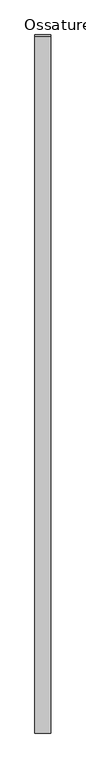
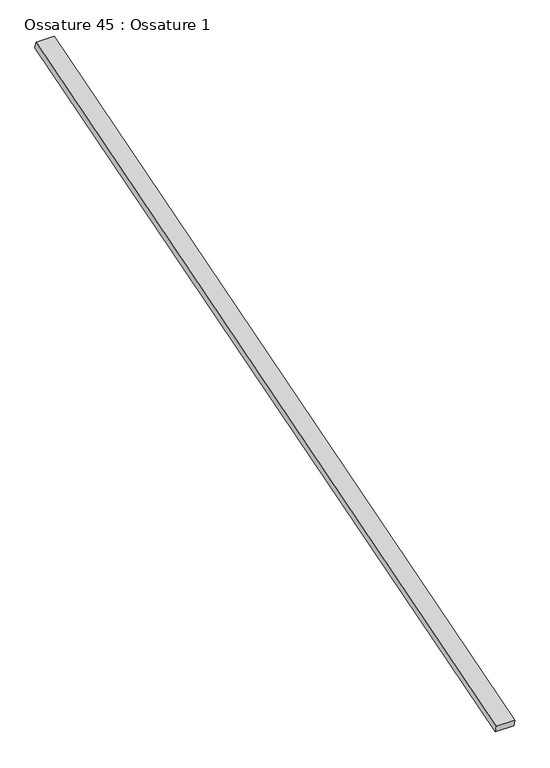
"""IFC4 building model written with IfcOpenShell, lengths in millimetres: beam geometry, Ossature 45 : Ossature 1."""

from ifc_helpers import new_model, si_unit, frame, origin, place, context, project, spatial, polyline, outline, extrude, source, transform, mapped, element, save


def ossature_45_ossature_1_4c7c0c81(model_context):
    return source(origin(), model_context, "Body", "SweptSolid", [
        extrude(outline(polyline([(0.0, 0.0), (0.0, -4543.0299679), (-100.0, -4543.0299679), (-100.0, 0.0), (0.0, 0.0)])), frame((11016.6466393, -833.3913565, 8153.6336115), z_axis=(0.0, -0.28734788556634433, 0.9578262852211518), x_axis=(-1.0, 0.0, 0.0)), (0.0, 0.0, 1.0), 40.0),
    ])


if __name__ == "__main__":
    model = new_model("IFC4")
    model_context = context("Model", 3, world=origin())
    ifc_project = project(units=[si_unit("LENGTHUNIT", "METRE", prefix="MILLI")], contexts=[model_context])
    site = spatial("IfcSite", under=ifc_project)
    building = spatial("IfcBuilding", under=site)
    placement = place(None, origin())
    ossature_45_ossature_1_shape = ossature_45_ossature_1_4c7c0c81(model_context)
    element("IfcBeam", 1, ObjectType="Ossature 45 : Ossature 1", at=placement, inside=building, context=model_context, shape_type="MappedRepresentation", body=[
        mapped(ossature_45_ossature_1_shape, transform((0.0, 0.0, 0.0), x_axis=(1.0, 0.0, 0.0), y_axis=(0.0, 1.0, 0.0), z_axis=(0.0, 0.0, 1.0))),
    ])
    save(model, "model.ifc")
